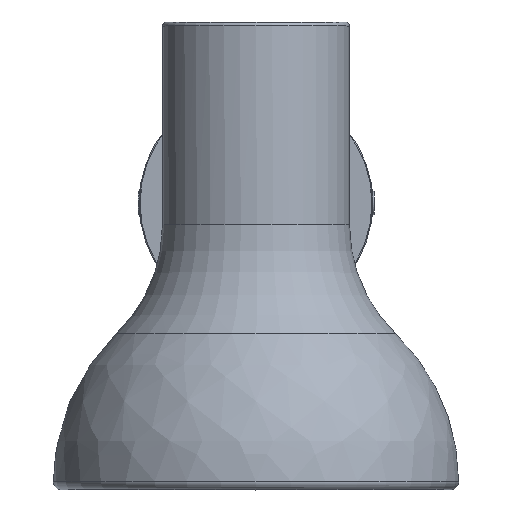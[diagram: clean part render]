
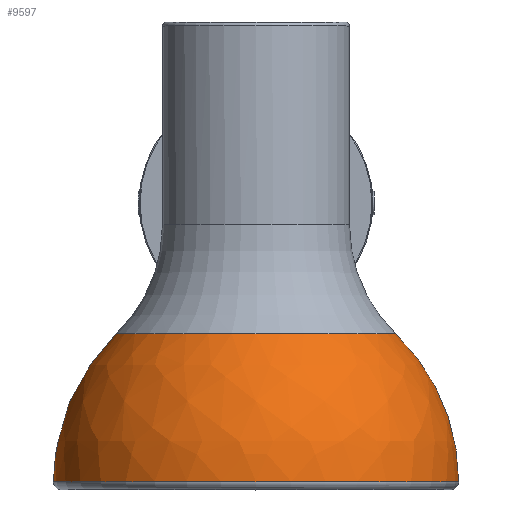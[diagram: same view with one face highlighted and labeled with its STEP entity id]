
A CAD part, top view. The second image highlights one B-rep face of the part: STEP entity #9597.
In plain terms, the highlighted free-form (B-spline) face has degree [2, 2] with [3, 9] control points.
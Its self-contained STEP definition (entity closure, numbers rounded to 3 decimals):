
#210=(
BOUNDED_SURFACE()
B_SPLINE_SURFACE(2,2,((#19696,#19697,#19698,#19699,#19700,#19701,#19702,
#19703,#19704),(#19705,#19706,#19707,#19708,#19709,#19710,#19711,#19712,
#19713),(#19714,#19715,#19716,#19717,#19718,#19719,#19720,#19721,#19722)),
 .UNSPECIFIED.,.F.,.T.,.F.)
B_SPLINE_SURFACE_WITH_KNOTS((3,3),(3,2,2,2,3),(-0.802,0.),
(-3.142,-1.571,0.,1.571,3.142),
 .UNSPECIFIED.)
GEOMETRIC_REPRESENTATION_ITEM()
RATIONAL_B_SPLINE_SURFACE(((1.,0.707,1.,0.707,1.,
0.707,1.,0.707,1.),(0.921,0.651,
0.921,0.651,0.921,0.651,
0.921,0.651,0.921),(1.,0.707,
1.,0.707,1.,0.707,1.,0.707,1.)))
REPRESENTATION_ITEM('')
SURFACE()
);
#483=CIRCLE('',#10353,44.848);
#499=CIRCLE('',#10375,65.);
#505=CIRCLE('',#10414,66.058);
#1162=FACE_OUTER_BOUND('',#1744,.T.);
#1744=EDGE_LOOP('',(#8631,#8632,#8633,#8634));
#4530=VERTEX_POINT('',#17364);
#4545=VERTEX_POINT('',#17414);
#5856=EDGE_CURVE('',#4530,#4530,#483,.T.);
#5880=EDGE_CURVE('',#4545,#4545,#499,.T.);
#6009=EDGE_CURVE('',#4545,#4530,#505,.T.);
#8631=ORIENTED_EDGE('',*,*,#5880,.F.);
#8632=ORIENTED_EDGE('',*,*,#6009,.T.);
#8633=ORIENTED_EDGE('',*,*,#5856,.T.);
#8634=ORIENTED_EDGE('',*,*,#6009,.F.);
#9597=ADVANCED_FACE('',(#1162),#210,.F.);
#10353=AXIS2_PLACEMENT_3D('',#17365,#12699,#12700);
#10375=AXIS2_PLACEMENT_3D('',#17416,#12749,#12750);
#10414=AXIS2_PLACEMENT_3D('',#19723,#12857,#12858);
#12699=DIRECTION('center_axis',(0.,-1.,0.));
#12700=DIRECTION('ref_axis',(-1.,0.,0.));
#12749=DIRECTION('center_axis',(0.,-1.,0.));
#12750=DIRECTION('ref_axis',(-1.,0.,0.));
#12857=DIRECTION('center_axis',(0.,0.,
1.));
#12858=DIRECTION('ref_axis',(1.,0.,0.));
#17364=CARTESIAN_POINT('',(44.848,-42.188,169.305));
#17365=CARTESIAN_POINT('Origin',(0.,-42.188,
169.305));
#17414=CARTESIAN_POINT('',(65.,-89.688,169.305));
#17416=CARTESIAN_POINT('Origin',(0.,-89.688,
169.305));
#19696=CARTESIAN_POINT('Ctrl Pts',(44.848,-42.188,169.305));
#19697=CARTESIAN_POINT('Ctrl Pts',(44.848,-42.188,214.153));
#19698=CARTESIAN_POINT('Ctrl Pts',(0.,-42.188,
214.153));
#19699=CARTESIAN_POINT('Ctrl Pts',(-44.848,-42.188,
214.153));
#19700=CARTESIAN_POINT('Ctrl Pts',(-44.848,-42.188,
169.305));
#19701=CARTESIAN_POINT('Ctrl Pts',(-44.848,-42.188,
124.456));
#19702=CARTESIAN_POINT('Ctrl Pts',(0.,-42.188,
124.456));
#19703=CARTESIAN_POINT('Ctrl Pts',(44.848,-42.188,124.456));
#19704=CARTESIAN_POINT('Ctrl Pts',(44.848,-42.188,169.305));
#19705=CARTESIAN_POINT('Ctrl Pts',(65.,-61.663,169.305));
#19706=CARTESIAN_POINT('Ctrl Pts',(65.,-61.663,234.305));
#19707=CARTESIAN_POINT('Ctrl Pts',(0.,-61.663,
234.305));
#19708=CARTESIAN_POINT('Ctrl Pts',(-65.,-61.663,234.305));
#19709=CARTESIAN_POINT('Ctrl Pts',(-65.,-61.663,169.305));
#19710=CARTESIAN_POINT('Ctrl Pts',(-65.,-61.663,104.305));
#19711=CARTESIAN_POINT('Ctrl Pts',(0.,-61.663,
104.305));
#19712=CARTESIAN_POINT('Ctrl Pts',(65.,-61.663,104.305));
#19713=CARTESIAN_POINT('Ctrl Pts',(65.,-61.663,169.305));
#19714=CARTESIAN_POINT('Ctrl Pts',(65.,-89.688,169.305));
#19715=CARTESIAN_POINT('Ctrl Pts',(65.,-89.688,234.305));
#19716=CARTESIAN_POINT('Ctrl Pts',(0.,-89.688,
234.305));
#19717=CARTESIAN_POINT('Ctrl Pts',(-65.,-89.688,234.305));
#19718=CARTESIAN_POINT('Ctrl Pts',(-65.,-89.688,169.305));
#19719=CARTESIAN_POINT('Ctrl Pts',(-65.,-89.688,104.305));
#19720=CARTESIAN_POINT('Ctrl Pts',(0.,-89.688,
104.305));
#19721=CARTESIAN_POINT('Ctrl Pts',(65.,-89.688,104.305));
#19722=CARTESIAN_POINT('Ctrl Pts',(65.,-89.688,169.305));
#19723=CARTESIAN_POINT('Origin',(-1.058,-89.688,169.305));
